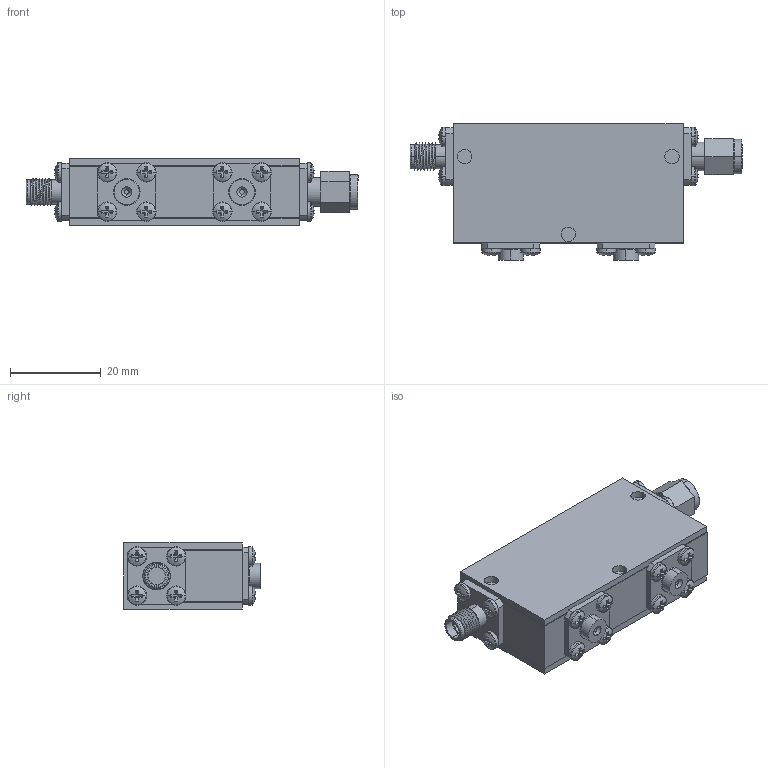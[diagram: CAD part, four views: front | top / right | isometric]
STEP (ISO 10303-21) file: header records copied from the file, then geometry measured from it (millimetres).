
FILE_DESCRIPTION (( 'STEP AP214' ), '1' );
FILE_NAME ('Package 14-2 Iso FM - Cryo Shielded.STEP', '2023-12-20T00:04:40', ( '' ), ( '' ), 'SwSTEP 2.0', 'SolidWorks 2016', '' );
FILE_SCHEMA (( 'AUTOMOTIVE_DESIGN' ));
Length unit declared in the file: inch
Products named in the file (7): pan cross head_ai_CR-PHMS 0.086-56x0.125x0.125-N; Package 14-2 Iso FM - Cryo Shielded; WR051; Delta SMA-Male; Package Size 14; Delta SMA-Female 0.500 flange Threaded; 030013-1A
Assembly tree (22 placements, depth 2):
  Package 14-2 Iso FM - Cryo Shielded
    Delta SMA-Female 0.500 flange Threaded
    030013-1A  x2
    pan cross head_ai_CR-PHMS 0.086-56x0.125x0.125-N  x16
    Package Size 14
    Delta SMA-Male
    WR051
Bounding box: 73.2 x 30.1 x 14.58 mm (x, y, z)
Volume: 20829.4 mm3; surface area: 14604.4 mm2
Topology: 22 solids, 22 shells, 562 faces, 1289 edges, 797 vertices
Faces by surface type: plane 305, cylinder 170, torus 44, sphere 32, cone 8, bspline 3
Entity records: 6845 total; most frequent: CARTESIAN_POINT 1703, DIRECTION 1105, ORIENTED_EDGE 918, EDGE_CURVE 459, AXIS2_PLACEMENT_3D 447, VERTEX_POINT 295, EDGE_LOOP 252, CIRCLE 240
